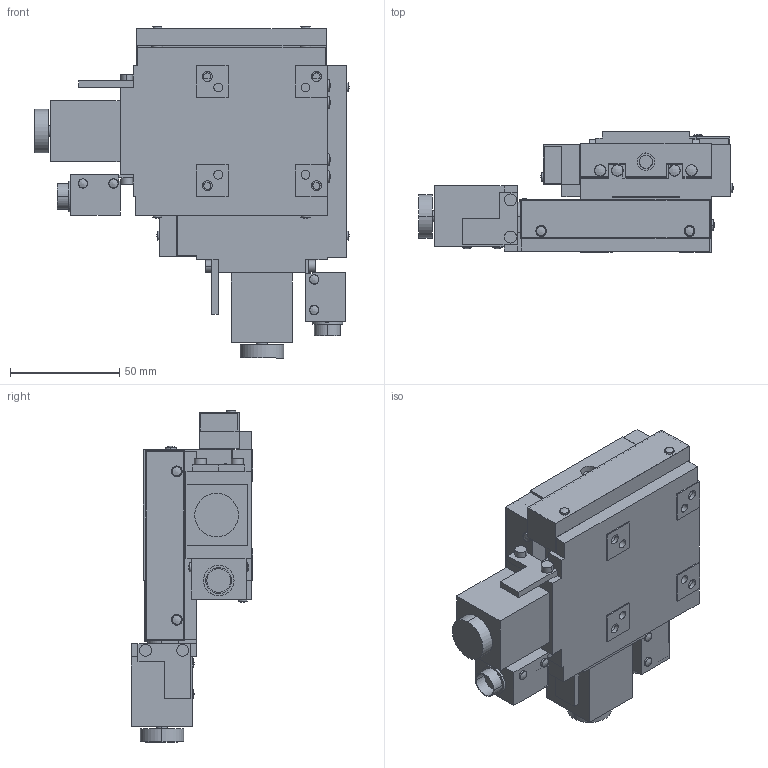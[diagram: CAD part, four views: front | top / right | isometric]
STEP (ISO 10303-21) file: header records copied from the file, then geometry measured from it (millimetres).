
FILE_DESCRIPTION (( 'STEP AP203' ), '1' );
FILE_NAME ('ALD-6012-G1M-RSA.STEP', '2017-11-14T06:00:33', ( '' ), ( '' ), 'SwSTEP 2.0', 'SolidWorks 2016', '' );
FILE_SCHEMA (( 'CONFIG_CONTROL_DESIGN' ));
Length unit declared in the file: millimetre
Products named in the file (4): ALD-6012-G1M-RSA-3; ALD-6012-G1M-RSA; ALD-6012-G1M-RSA-1; ALD-6012-G1M-RSA-2
Assembly tree (3 placements, depth 2):
  ALD-6012-G1M-RSA
    ALD-6012-G1M-RSA-1
    ALD-6012-G1M-RSA-2
    ALD-6012-G1M-RSA-3
Bounding box: 143.96 x 55.5 x 152.16 mm (x, y, z)
Volume: 356227.8 mm3; surface area: 125581.5 mm2
Topology: 3 solids, 9 shells, 651 faces, 1582 edges, 1026 vertices
Faces by surface type: plane 353, cylinder 202, cone 64, bspline 32
Entity records: 25862 total; most frequent: CARTESIAN_POINT 9773, DIRECTION 3292, ORIENTED_EDGE 3164, EDGE_CURVE 1582, AXIS2_PLACEMENT_3D 1153, VERTEX_POINT 1026, LINE 986, VECTOR 986
